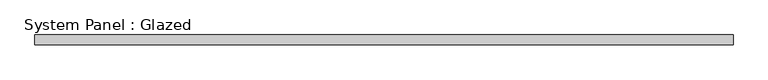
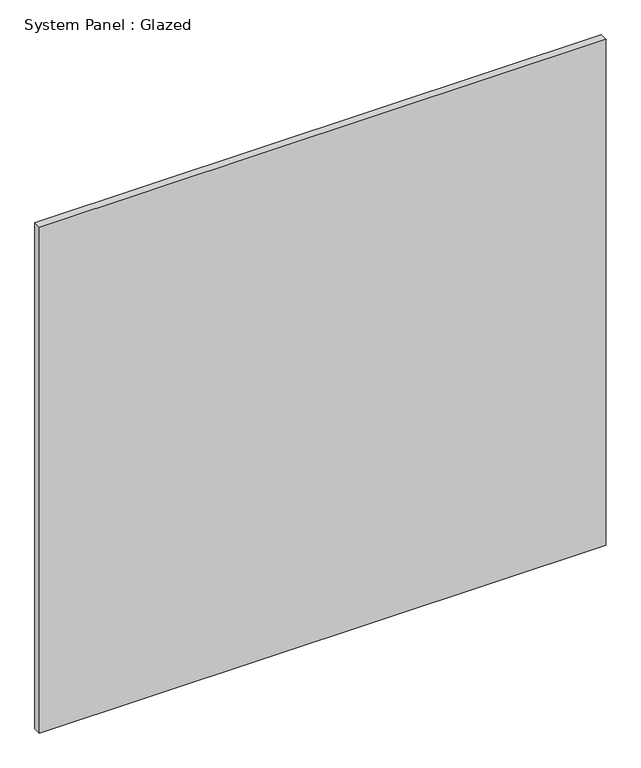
"""IFC4 building model written with IfcOpenShell, lengths in millimetres: plate geometry, System Panel : Glazed."""

import ifcopenshell
import ifcopenshell.guid

model = None  # the IFC model being written
_history = None  # IfcOwnerHistory: only IFC2X3 demands one
_inside = {}  # id of a spatial element -> (the spatial element, [elements in it])
_under = {}  # id of a project, library or spatial element -> (it, [spatial elements below it])
_declared = {}  # id of a project -> (the project, [libraries it declares])
_typed = {}  # id of a type object -> (the type object, [elements of that type])
_made_of = {}  # id of a material, layer set ... -> (it, [elements and type objects made of it])


def new_model(schema):
    """Start an empty IFC model of exactly this schema.

    Asked for "IFC4X3", IfcOpenShell would pick the latest addendum, in which some entities
    have other attributes; the version numbers below select the first issue.
    IFC2X3 requires an IfcOwnerHistory on every rooted entity: one is made here for all.
    """
    global model, _history
    if schema == "IFC4X3":
        model = ifcopenshell.file(schema_version=(4, 3, 0, 0))
    else:
        model = ifcopenshell.file(schema=schema)
    _inside.clear()
    _under.clear()
    _declared.clear()
    _typed.clear()
    _made_of.clear()
    _history = None
    if model.schema == "IFC2X3":
        org = make("IfcOrganization", Name="unknown")
        user = make(
            "IfcPersonAndOrganization",
            ThePerson=make("IfcPerson", FamilyName="unknown"),
            TheOrganization=org,
        )
        app = make(
            "IfcApplication",
            ApplicationDeveloper=org,
            Version="unknown",
            ApplicationFullName="unknown",
            ApplicationIdentifier="unknown",
        )
        _history = make(
            "IfcOwnerHistory",
            OwningUser=user,
            OwningApplication=app,
            ChangeAction="ADDED",
            CreationDate=0,
        )
    return model


def make(cls, **values):
    """One entity of the class cls with the attributes given. An attribute that is None is left unset."""
    return model.create_entity(
        cls, **{name: value for name, value in values.items() if value is not None}
    )


def rooted(cls, **values):
    """An entity with a GlobalId (a new one), such as an element, a storey or a relation."""
    return make(cls, GlobalId=ifcopenshell.guid.new(), OwnerHistory=_history, **values)


def si_unit(unit_type, name, prefix=None):
    """IfcSIUnit, for example si_unit("LENGTHUNIT", "METRE", prefix="MILLI")."""
    return make("IfcSIUnit", UnitType=unit_type, Prefix=prefix, Name=name)


def assignment(units):
    """IfcUnitAssignment: the units of a project."""
    return None if units is None else make("IfcUnitAssignment", Units=units)


def point(xyz):
    """IfcCartesianPoint."""
    return None if xyz is None else make("IfcCartesianPoint", Coordinates=xyz)


def direction(xyz):
    """IfcDirection."""
    return None if xyz is None else make("IfcDirection", DirectionRatios=xyz)


def frame(location, z_axis=None, x_axis=None):
    """IfcAxis2Placement3D, a coordinate frame: its origin and axes. An axis left out is left unset."""
    return make(
        "IfcAxis2Placement3D",
        Location=point(location),
        Axis=direction(z_axis),
        RefDirection=direction(x_axis),
    )


def origin():
    """The frame at (0, 0, 0) with its axes left unset."""
    return frame((0.0, 0.0, 0.0))


def origin_with_axes():
    """The frame at (0, 0, 0) with the z axis (0, 0, 1) and the x axis (1, 0, 0) written out."""
    return frame((0.0, 0.0, 0.0), z_axis=(0.0, 0.0, 1.0), x_axis=(1.0, 0.0, 0.0))


def place(relative_to, where):
    """IfcLocalPlacement: puts the frame where relative to a parent placement (None: the world)."""
    return make(
        "IfcLocalPlacement", PlacementRelTo=relative_to, RelativePlacement=where
    )


def context(
    kind, dimensions, precision=None, world=None, true_north=None, identifier=None
):
    """IfcGeometricRepresentationContext, for example the 3D "Model" context."""
    return make(
        "IfcGeometricRepresentationContext",
        ContextIdentifier=identifier,
        ContextType=kind,
        CoordinateSpaceDimension=dimensions,
        Precision=precision,
        WorldCoordinateSystem=world,
        TrueNorth=true_north,
    )


def project(units=None, contexts=None):
    """IfcProject with its units and contexts."""
    return rooted(
        "IfcProject",
        Name="project",
        RepresentationContexts=contexts,
        UnitsInContext=assignment(units),
    )


def spatial(cls, under=None, at=None, **own):
    """A site, building, storey or space (cls), placed at a placement, below another one or the project."""
    s = rooted(cls, ObjectPlacement=at, **own)
    if under is not None:
        _under.setdefault(under.id(), (under, []))[1].append(s)
    return s


def polyline(points):
    """IfcPolyline through the points."""
    return make("IfcPolyline", Points=[point(p) for p in points])


def outline(outer, holes=None, kind="AREA"):
    """IfcArbitraryClosedProfileDef: a profile drawn as a closed curve; with holes, ...WithVoids."""
    if holes is None:
        return make("IfcArbitraryClosedProfileDef", ProfileType=kind, OuterCurve=outer)
    return make(
        "IfcArbitraryProfileDefWithVoids",
        ProfileType=kind,
        OuterCurve=outer,
        InnerCurves=holes,
    )


def extrude(swept, where, along, depth):
    """IfcExtrudedAreaSolid: the profile swept, set in the frame where, extruded along a direction by depth."""
    return make(
        "IfcExtrudedAreaSolid",
        SweptArea=swept,
        Position=where,
        ExtrudedDirection=direction(along),
        Depth=depth,
    )


def shape(context_of_items, identifier, shape_type, items):
    """IfcShapeRepresentation: the items that make up one representation, for example the "Body"."""
    return make(
        "IfcShapeRepresentation",
        ContextOfItems=context_of_items,
        RepresentationIdentifier=identifier,
        RepresentationType=shape_type,
        Items=items,
    )


def source(mapping_origin, context_of_items, identifier, shape_type, items):
    """IfcRepresentationMap: a shape defined once, which mapped items show again and again."""
    return make(
        "IfcRepresentationMap",
        MappingOrigin=mapping_origin,
        MappedRepresentation=shape(context_of_items, identifier, shape_type, items),
    )


def transform(
    local_origin,
    x_axis=None,
    y_axis=None,
    z_axis=None,
    scale=None,
    scale2=None,
    scale3=None,
    uniform=True,
):
    """IfcCartesianTransformationOperator3D, or its non-uniform kind. x_axis, y_axis, z_axis: its Axis1, 2, 3."""
    if uniform:
        return make(
            "IfcCartesianTransformationOperator3D",
            Axis1=direction(x_axis),
            Axis2=direction(y_axis),
            LocalOrigin=point(local_origin),
            Scale=scale,
            Axis3=direction(z_axis),
        )
    return make(
        "IfcCartesianTransformationOperator3DnonUniform",
        Axis1=direction(x_axis),
        Axis2=direction(y_axis),
        LocalOrigin=point(local_origin),
        Scale=scale,
        Axis3=direction(z_axis),
        Scale2=scale2,
        Scale3=scale3,
    )


def mapped(mapping_source, mapping_target):
    """IfcMappedItem: shows the shape of a source again, moved by a transform."""
    return make(
        "IfcMappedItem", MappingSource=mapping_source, MappingTarget=mapping_target
    )


def made_of(thing, what):
    """Note that an element or type object is made of a material, layer set ...; save() writes the relation."""
    if what is not None:
        _made_of.setdefault(what.id(), (what, []))[1].append(thing)
    return thing


def element(
    cls,
    number,
    at=None,
    inside=None,
    cuts=None,
    type_object=None,
    material=None,
    context=None,
    identifier="Body",
    shape_type=None,
    held_by="IfcProductDefinitionShape",
    body=None,
    shapes=None,
    **own,
):
    """One element of the class cls, such as IfcWall. Its Tag is "e" and its number.

    at: its placement. inside: the storey or other place that contains it. cuts: it is an
    opening in that element (IfcRelVoidsElement). A single representation is given by context,
    identifier, shape_type and body (its items); several are given by shapes. held_by: the class
    of the entity that holds the representations. save() writes the other relations.
    """
    e = rooted(cls, Tag="e%d" % number, ObjectPlacement=at, **own)
    if body is not None:
        shapes = [shape(context, identifier, shape_type, body)]
    if shapes is not None:
        e.Representation = make(held_by, Representations=shapes)
    if inside is not None:
        _inside.setdefault(inside.id(), (inside, []))[1].append(e)
    if cuts is not None:
        rooted(
            "IfcRelVoidsElement", RelatingBuildingElement=cuts, RelatedOpeningElement=e
        )
    if type_object is not None:
        _typed.setdefault(type_object.id(), (type_object, []))[1].append(e)
    return made_of(e, material)


def aggregate(whole, parts):
    """IfcRelAggregates: a whole, such as a stair, and the parts it consists of."""
    return rooted("IfcRelAggregates", RelatingObject=whole, RelatedObjects=parts)


def save(model, path):
    """Write the relations noted so far, then the file.

    IfcRelAggregates (storeys below a building ...), IfcRelContainedInSpatialStructure (elements
    in a storey), IfcRelDefinesByType, IfcRelAssociatesMaterial and IfcRelDeclares: one each for
    every whole, place, type object, material and project.
    """
    for whole, parts in _under.values():
        aggregate(whole, parts)
    for where, things in _inside.values():
        rooted(
            "IfcRelContainedInSpatialStructure",
            RelatedElements=things,
            RelatingStructure=where,
        )
    for kind, things in _typed.values():
        rooted("IfcRelDefinesByType", RelatedObjects=things, RelatingType=kind)
    for what, things in _made_of.values():
        rooted("IfcRelAssociatesMaterial", RelatedObjects=things, RelatingMaterial=what)
    for by, libraries in _declared.values():
        rooted("IfcRelDeclares", RelatingContext=by, RelatedDefinitions=libraries)
    model.write(path)


def system_panel_glazed_7aafd440(model_context):
    return source(origin(), model_context, "Body", "SweptSolid", [
        extrude(outline(polyline([(914.4, 19.05), (-914.4, 19.05), (-914.4, 44.45), (914.4, 44.45), (914.4, 19.05)])), origin_with_axes(), (0.0, 0.0, 1.0), 1727.2),
    ])


if __name__ == "__main__":
    model = new_model("IFC4")
    model_context = context("Model", 3, world=origin())
    ifc_project = project(units=[si_unit("LENGTHUNIT", "METRE", prefix="MILLI")], contexts=[model_context])
    site = spatial("IfcSite", under=ifc_project)
    building = spatial("IfcBuilding", under=site)
    placement = place(None, origin())
    system_panel_glazed_shape = system_panel_glazed_7aafd440(model_context)
    element("IfcPlate", 1, ObjectType="System Panel : Glazed", at=placement, inside=building, context=model_context, shape_type="MappedRepresentation", body=[
        mapped(system_panel_glazed_shape, transform((0.0, 0.0, 0.0), x_axis=(1.0, 0.0, 0.0), y_axis=(0.0, 1.0, 0.0), z_axis=(0.0, 0.0, 1.0))),
    ])
    save(model, "model.ifc")
